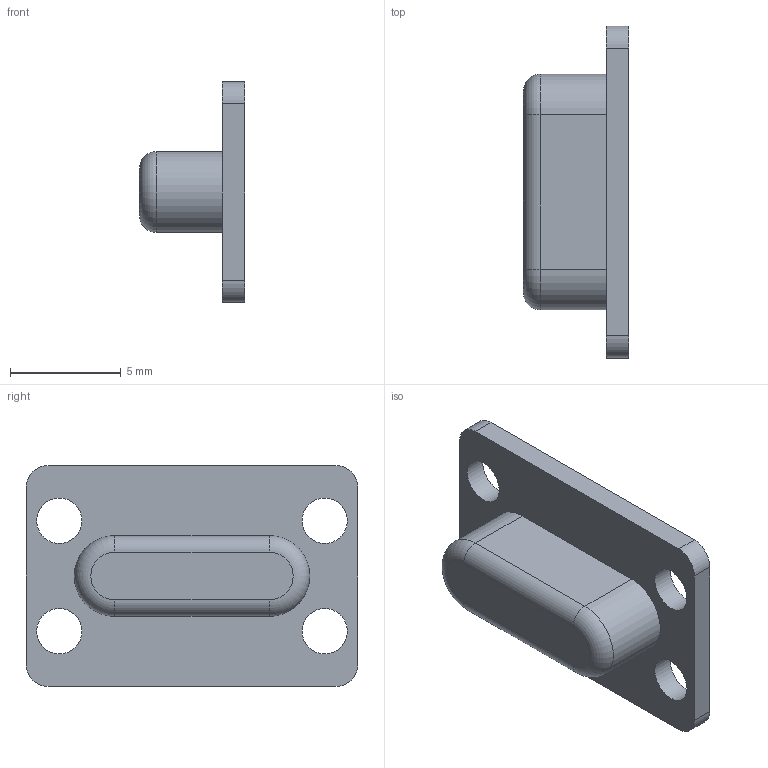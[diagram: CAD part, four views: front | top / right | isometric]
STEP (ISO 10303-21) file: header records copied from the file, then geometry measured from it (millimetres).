
FILE_DESCRIPTION(/* description */ (''),/* implementation_level */ '2;1');
FILE_NAME(/* name */ 'Exploiteers_Hacker_Pager_V107_Side_Button_step.stp',/* time_stamp */ '2026-06-11T15:13:02-04:00',/* author */ 'SGX',/* organization */ 'Exploiteers',/* preprocessor_version */ 'ST-DEVELOPER v20.1',/* originating_system */ 'Autodesk Translation Framework v15.8.0.0',/* authorisation */ '');
FILE_SCHEMA (('AUTOMOTIVE_DESIGN { 1 0 10303 214 3 1 1 }'));
Length unit declared in the file: millimetre
Products named in the file (1): Side_Button
Bounding box: 4.75 x 15 x 10 mm (x, y, z)
Volume: 268 mm3; surface area: 433 mm2
Topology: 1 solids, 1 shells, 23 faces, 56 edges, 36 vertices
Faces by surface type: cylinder 12, plane 9, torus 2
Full cylindrical faces by diameter (mm): 2.05 x4
Entity records: 733 total; most frequent: DIRECTION 130, CARTESIAN_POINT 116, ORIENTED_EDGE 112, EDGE_CURVE 56, AXIS2_PLACEMENT_3D 50, VERTEX_POINT 36, EDGE_LOOP 32, LINE 30
